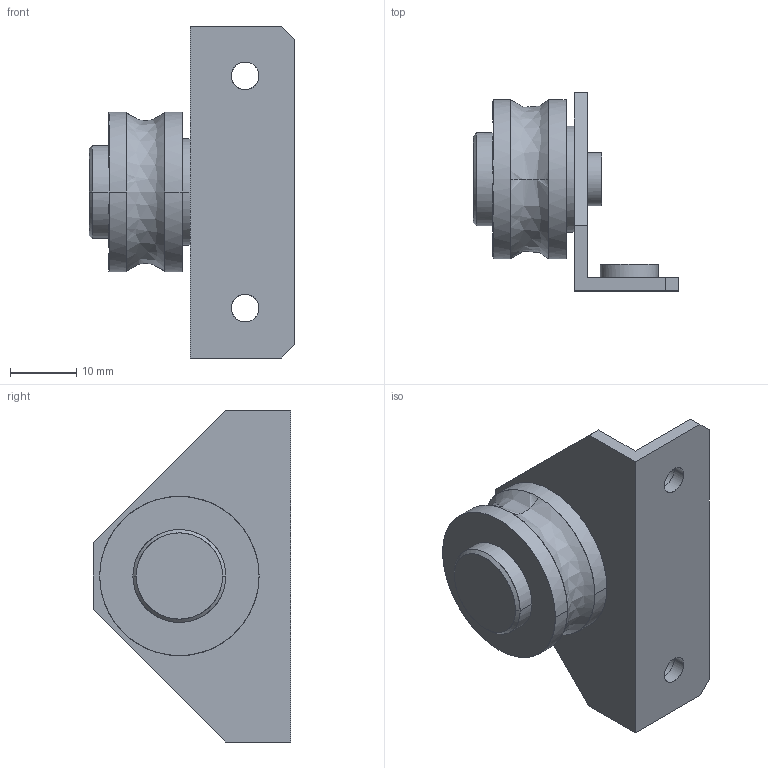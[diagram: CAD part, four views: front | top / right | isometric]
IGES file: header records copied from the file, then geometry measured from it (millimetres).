
Global section: file name: No Iges File Name specified; native system: AutoDesk Inventor R11.0; preprocessor: AutoDesk Inventor Iges Exporter R11.0; author: No Author specified; organization: No Organization specified; date: 20190511.110353; units: millimetre
Bounding box: 31 x 29.8 x 50 mm (x, y, z)
Surface area: 6205.6 mm2 (no closed solid volume)
Topology: 0 solids, 0 shells, 49 faces, 320 edges, 320 vertices
Faces by surface type: bspline 49
